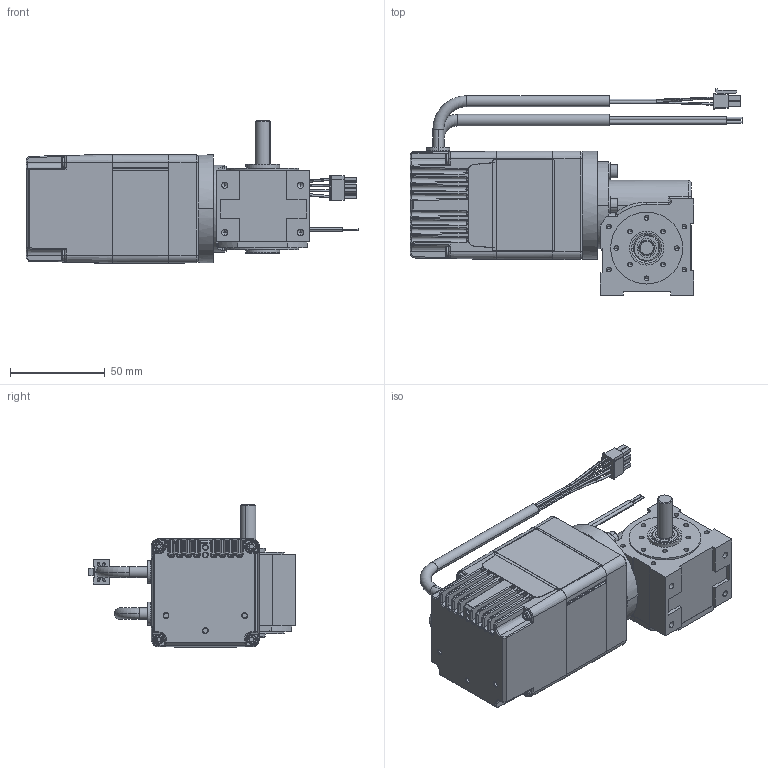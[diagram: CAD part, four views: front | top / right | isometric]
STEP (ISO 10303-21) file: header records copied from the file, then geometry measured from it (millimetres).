
FILE_DESCRIPTION (( 'STEP AP214' ), '1' );
FILE_NAME ('GP-SN15 R 77W - 2.STEP', '2023-05-25T13:09:24', ( '' ), ( '' ), 'SwSTEP 2.0', 'SolidWorks 2021', '' );
FILE_SCHEMA (( 'AUTOMOTIVE_DESIGN' ));
Length unit declared in the file: millimetre
Products named in the file (17): xa010873_1_4; xa010873_1_6; xa010873_1_5; hexa csunk flathd screw_iso_ISO 14581 M3x8x8-N; GP-SN15 R 77W - 2; 15-D-004_3D-Export; 15-G-005_3D-Export; 15-W-061_3D-Export; 15-M-024 I 77W_4000Upm; xa010873_1_2; K_14x6.0; socket head cap screw_iso_ISO 4762 M4 x 12 - 12C; NBR_WDR_8x14x4; plain washer normal grade a_iso_Washer ISO 7089 - 4; xa010873_1_3; xa010873_1; SN15_3D-Export_Welle 2
Assembly tree (23 placements, depth 3):
  GP-SN15 R 77W - 2
    SN15_3D-Export_Welle 2
      15-G-005_3D-Export
      15-D-004_3D-Export
      15-W-061_3D-Export
      NBR_WDR_8x14x4
      K_14x6.0
      hexa csunk flathd screw_iso_ISO 14581 M3x8x8-N  x4
      plain washer normal grade a_iso_Washer ISO 7089 - 4  x3
      socket head cap screw_iso_ISO 4762 M4 x 12 - 12C  x3
    15-M-024 I 77W_4000Upm
      xa010873_1
      xa010873_1_3
      xa010873_1_6
      xa010873_1_5
      xa010873_1_4
      xa010873_1_2
Bounding box: 175.45 x 109.33 x 75.2 mm (x, y, z)
Volume: 423281.7 mm3; surface area: 82145.6 mm2
Topology: 21 solids, 21 shells, 1550 faces, 3770 edges, 2286 vertices
Faces by surface type: cylinder 587, plane 492, cone 212, bspline 106, torus 83, sphere 70
Entity records: 53494 total; most frequent: CARTESIAN_POINT 20367, ORIENTED_EDGE 6696, DIRECTION 6494, EDGE_CURVE 3348, AXIS2_PLACEMENT_3D 2416, VERTEX_POINT 2072, VECTOR 1662, LINE 1662
